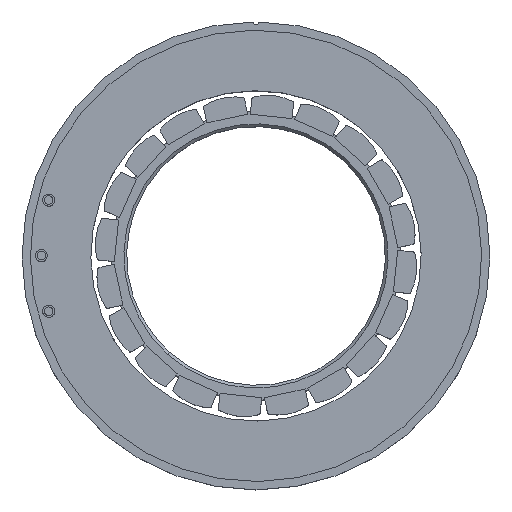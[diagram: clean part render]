
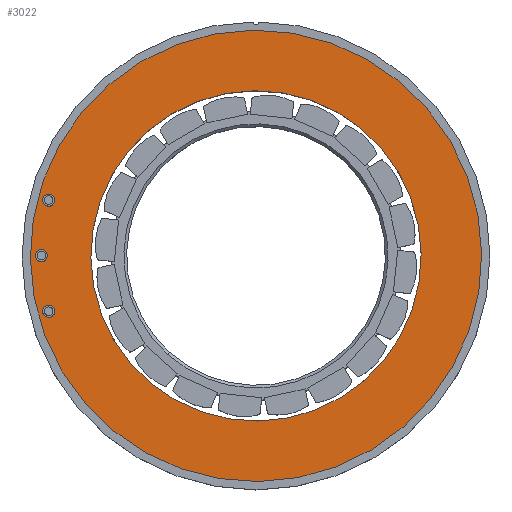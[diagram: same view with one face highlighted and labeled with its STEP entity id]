
A CAD part, top view. The second image highlights one B-rep face of the part: STEP entity #3022.
In plain terms, the highlighted planar face has unit normal (0, 0, 1).
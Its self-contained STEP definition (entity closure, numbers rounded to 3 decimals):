
#105 = CARTESIAN_POINT ( 'NONE',  ( 0., 0., 19.3 ) ) ;
#148 = DIRECTION ( 'NONE',  ( 0., 0., 1. ) ) ;
#289 = EDGE_LOOP ( 'NONE', ( #9125, #2793 ) ) ;
#672 = DIRECTION ( 'NONE',  ( 1., 0., 0. ) ) ;
#723 = AXIS2_PLACEMENT_3D ( 'NONE', #3430, #6465, #9475 ) ;
#769 = CIRCLE ( 'NONE', #2030, 41. ) ;
#980 = DIRECTION ( 'NONE',  ( 1., 0., 0. ) ) ;
#1194 = CIRCLE ( 'NONE', #723, 30. ) ;
#1421 = CARTESIAN_POINT ( 'NONE',  ( 0., 0., 19.3 ) ) ;
#1643 = DIRECTION ( 'NONE',  ( 0., 0., 1. ) ) ;
#1725 = CARTESIAN_POINT ( 'NONE',  ( 0., 0., 19.3 ) ) ;
#1824 = EDGE_CURVE ( 'NONE', #2244, #8430, #9578, .T. ) ;
#1974 = EDGE_CURVE ( 'NONE', #5538, #7205, #1194, .T. ) ;
#2030 = AXIS2_PLACEMENT_3D ( 'NONE', #105, #1643, #5451 ) ;
#2187 = AXIS2_PLACEMENT_3D ( 'NONE', #1421, #2757, #672 ) ;
#2244 = VERTEX_POINT ( 'NONE', #8536 ) ;
#2348 = CARTESIAN_POINT ( 'NONE',  ( 0., 0., 19.3 ) ) ;
#2640 = CIRCLE ( 'NONE', #8184, 30. ) ;
#2757 = DIRECTION ( 'NONE',  ( 0., 0., 1. ) ) ;
#2793 = ORIENTED_EDGE ( 'NONE', *, *, #1974, .F. ) ;
#3022 = ADVANCED_FACE ( 'NONE', ( #4449, #9004 ), #3596, .T. ) ;
#3394 = EDGE_CURVE ( 'NONE', #8430, #2244, #769, .T. ) ;
#3430 = CARTESIAN_POINT ( 'NONE',  ( 0., 0., 19.3 ) ) ;
#3596 = PLANE ( 'NONE',  #2187 ) ;
#4449 = FACE_OUTER_BOUND ( 'NONE', #5148, .T. ) ;
#4455 = ORIENTED_EDGE ( 'NONE', *, *, #3394, .T. ) ;
#4788 = CARTESIAN_POINT ( 'NONE',  ( -30., 0., 19.3 ) ) ;
#5148 = EDGE_LOOP ( 'NONE', ( #9011, #4455 ) ) ;
#5372 = DIRECTION ( 'NONE',  ( 0., 0., 1. ) ) ;
#5389 = CARTESIAN_POINT ( 'NONE',  ( 30., 0., 19.3 ) ) ;
#5451 = DIRECTION ( 'NONE',  ( 1., 0., 0. ) ) ;
#5538 = VERTEX_POINT ( 'NONE', #5389 ) ;
#6465 = DIRECTION ( 'NONE',  ( 0., 0., 1. ) ) ;
#6597 = CARTESIAN_POINT ( 'NONE',  ( 41., 0., 19.3 ) ) ;
#7071 = AXIS2_PLACEMENT_3D ( 'NONE', #2348, #5372, #8408 ) ;
#7205 = VERTEX_POINT ( 'NONE', #4788 ) ;
#8184 = AXIS2_PLACEMENT_3D ( 'NONE', #1725, #148, #980 ) ;
#8408 = DIRECTION ( 'NONE',  ( 1., 0., 0. ) ) ;
#8430 = VERTEX_POINT ( 'NONE', #6597 ) ;
#8533 = EDGE_CURVE ( 'NONE', #7205, #5538, #2640, .T. ) ;
#8536 = CARTESIAN_POINT ( 'NONE',  ( -41., 0., 19.3 ) ) ;
#9004 = FACE_BOUND ( 'NONE', #289, .T. ) ;
#9011 = ORIENTED_EDGE ( 'NONE', *, *, #1824, .T. ) ;
#9125 = ORIENTED_EDGE ( 'NONE', *, *, #8533, .F. ) ;
#9475 = DIRECTION ( 'NONE',  ( 1., 0., 0. ) ) ;
#9578 = CIRCLE ( 'NONE', #7071, 41. ) ;
